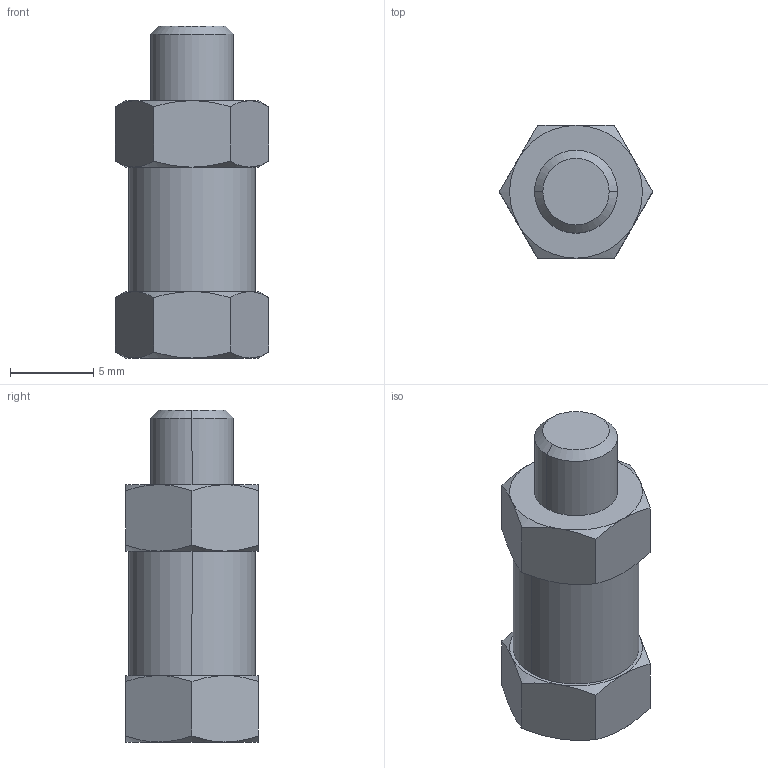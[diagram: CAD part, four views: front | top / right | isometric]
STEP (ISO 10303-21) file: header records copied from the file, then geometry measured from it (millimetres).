
FILE_DESCRIPTION (( 'STEP AP214' ), '1' );
FILE_NAME ('VSVK-M5F.STEP', '2023-01-26T16:33:39', ( '' ), ( '' ), 'SwSTEP 2.0', 'SolidWorks 2018', '' );
FILE_SCHEMA (( 'AUTOMOTIVE_DESIGN' ));
Length unit declared in the file: millimetre
Products named in the file (1): VSVK-M5F
Bounding box: 9.24 x 8 x 20 mm (x, y, z)
Volume: 805.1 mm3; surface area: 642.2 mm2
Topology: 1 solids, 1 shells, 54 faces, 116 edges, 67 vertices
Faces by surface type: cone 30, plane 18, cylinder 6
Entity records: 1487 total; most frequent: CARTESIAN_POINT 332, ORIENTED_EDGE 228, DIRECTION 218, EDGE_CURVE 114, AXIS2_PLACEMENT_3D 97, VERTEX_POINT 67, EDGE_LOOP 59, FACE_OUTER_BOUND 54
